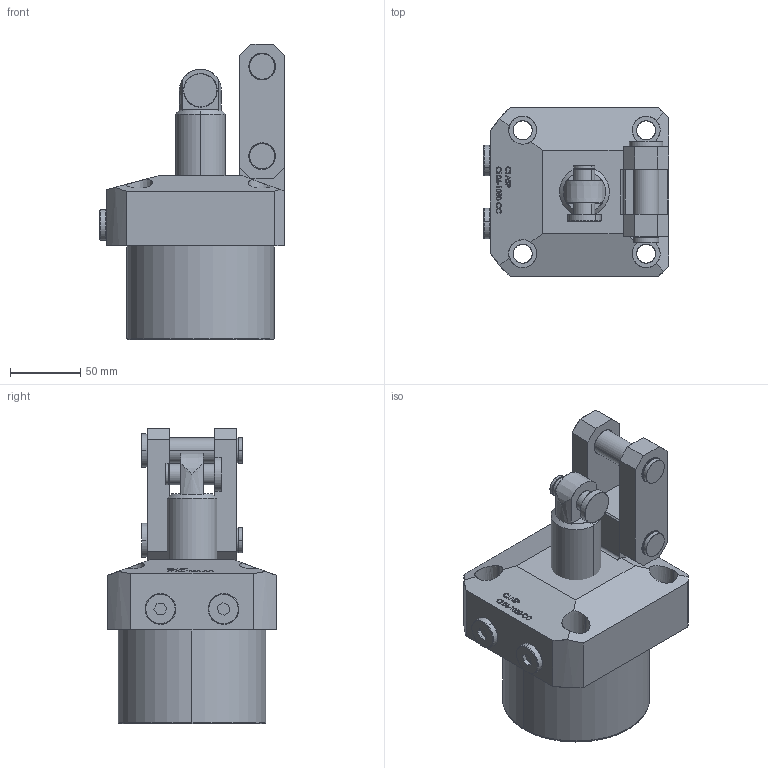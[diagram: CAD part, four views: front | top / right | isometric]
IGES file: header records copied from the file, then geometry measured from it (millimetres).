
Start section: SolidWorks IGES file using analytic representation for surfaces
Global section: file name: D:\karuppas\Clasp\3D model\Link clamp cylinder\CL06-1050-CC\CL06-1050-cc.IGS; native system: SolidWorks 2017; preprocessor: SolidWorks 2017; author: pc; date: 220705.231441; units: millimetre
Bounding box: 132 x 120 x 211 mm (x, y, z)
Surface area: 138024.9 mm2 (no closed solid volume)
Topology: 0 solids, 0 shells, 400 faces, 6498 edges, 6494 vertices
Faces by surface type: bspline 274, revolution 126
